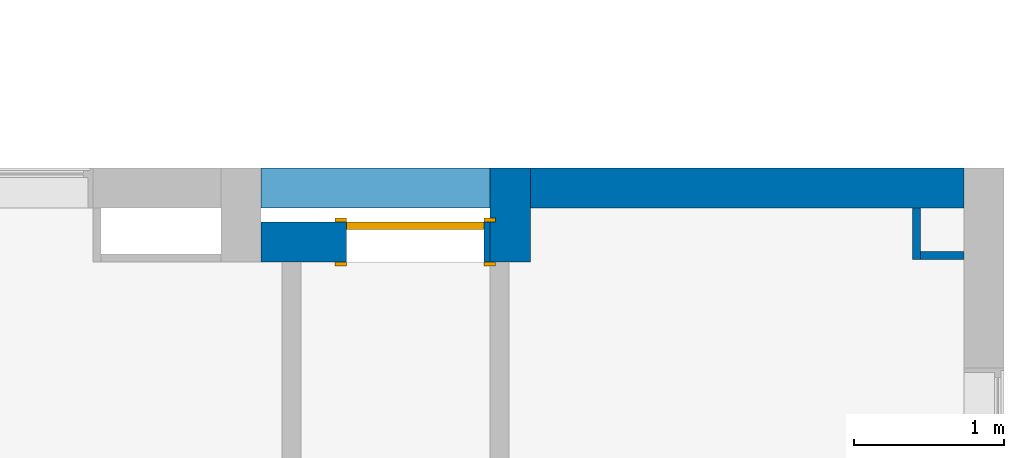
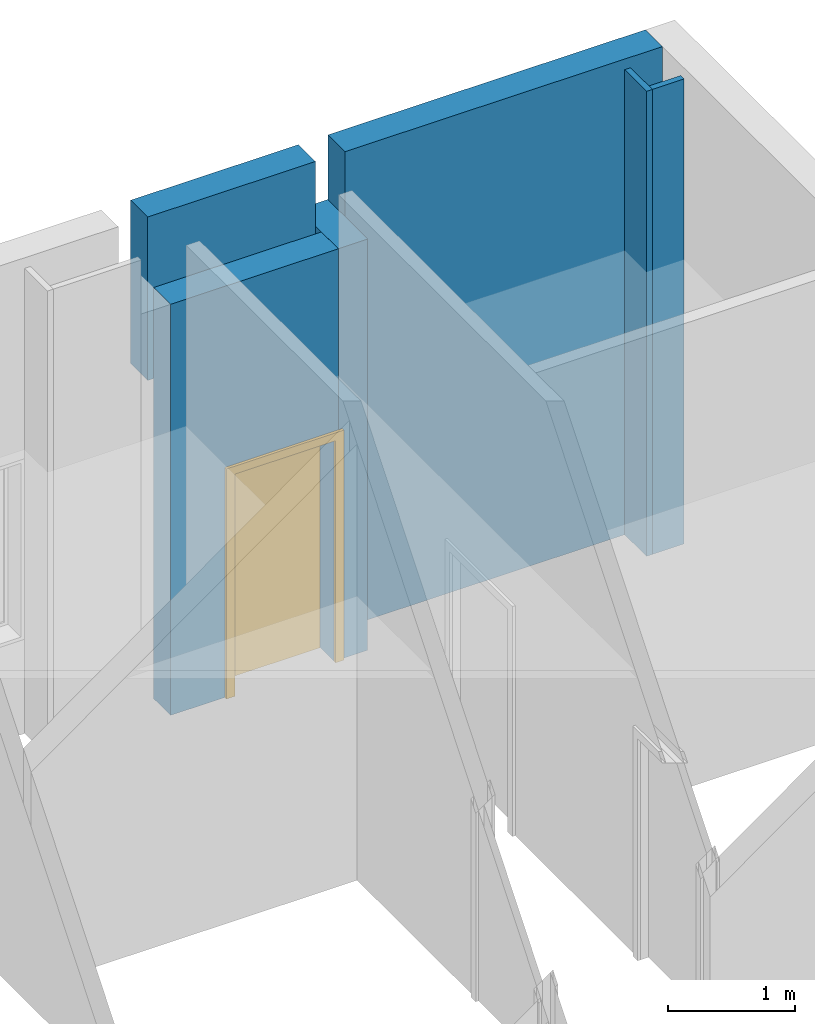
# One storey, part 42 of 87: 6 walls, 1 door, 1 opening.
"""IFC2X3 building model written with IfcOpenShell, lengths in metres."""

import ifcopenshell
import ifcopenshell.guid

model = None  # the IFC model being written
_history = None  # IfcOwnerHistory: only IFC2X3 demands one
_inside = {}  # id of a spatial element -> (the spatial element, [elements in it])
_under = {}  # id of a project, library or spatial element -> (it, [spatial elements below it])
_declared = {}  # id of a project -> (the project, [libraries it declares])
_typed = {}  # id of a type object -> (the type object, [elements of that type])
_made_of = {}  # id of a material, layer set ... -> (it, [elements and type objects made of it])


def new_model(schema):
    """Start an empty IFC model of exactly this schema.

    Asked for "IFC4X3", IfcOpenShell would pick the latest addendum, in which some entities
    have other attributes; the version numbers below select the first issue.
    IFC2X3 requires an IfcOwnerHistory on every rooted entity: one is made here for all.
    """
    global model, _history
    if schema == "IFC4X3":
        model = ifcopenshell.file(schema_version=(4, 3, 0, 0))
    else:
        model = ifcopenshell.file(schema=schema)
    _inside.clear()
    _under.clear()
    _declared.clear()
    _typed.clear()
    _made_of.clear()
    _history = None
    if model.schema == "IFC2X3":
        org = make("IfcOrganization", Name="unknown")
        user = make(
            "IfcPersonAndOrganization",
            ThePerson=make("IfcPerson", FamilyName="unknown"),
            TheOrganization=org,
        )
        app = make(
            "IfcApplication",
            ApplicationDeveloper=org,
            Version="unknown",
            ApplicationFullName="unknown",
            ApplicationIdentifier="unknown",
        )
        _history = make(
            "IfcOwnerHistory",
            OwningUser=user,
            OwningApplication=app,
            ChangeAction="ADDED",
            CreationDate=0,
        )
    return model


def make(cls, **values):
    """One entity of the class cls with the attributes given. An attribute that is None is left unset."""
    return model.create_entity(
        cls, **{name: value for name, value in values.items() if value is not None}
    )


def entity(cls, *values):
    """Any entity or typed value of the class cls, its attributes in the order of the schema. None: left unset."""
    e = model.create_entity(cls)
    for i, value in enumerate(values):
        if value is not None:
            e[i] = value
    return e


def rooted(cls, **values):
    """An entity with a GlobalId (a new one), such as an element, a storey or a relation."""
    return make(cls, GlobalId=ifcopenshell.guid.new(), OwnerHistory=_history, **values)


def si_unit(unit_type, name, prefix=None):
    """IfcSIUnit, for example si_unit("LENGTHUNIT", "METRE", prefix="MILLI")."""
    return make("IfcSIUnit", UnitType=unit_type, Prefix=prefix, Name=name)


def converted_unit(unit_type, name, factor, base, dimensions=None, offset=None):
    """IfcConversionBasedUnit, such as the inch: factor (a typed value) times the base unit."""
    return make(
        "IfcConversionBasedUnit"
        if offset is None
        else "IfcConversionBasedUnitWithOffset",
        ConversionOffset=offset,
        Dimensions=None
        if dimensions is None
        else entity("IfcDimensionalExponents", *dimensions),
        UnitType=unit_type,
        Name=name,
        ConversionFactor=make(
            "IfcMeasureWithUnit", ValueComponent=factor, UnitComponent=base
        ),
    )


def assignment(units):
    """IfcUnitAssignment: the units of a project."""
    return None if units is None else make("IfcUnitAssignment", Units=units)


def point(xyz):
    """IfcCartesianPoint."""
    return None if xyz is None else make("IfcCartesianPoint", Coordinates=xyz)


def direction(xyz):
    """IfcDirection."""
    return None if xyz is None else make("IfcDirection", DirectionRatios=xyz)


def frame(location, z_axis=None, x_axis=None):
    """IfcAxis2Placement3D, a coordinate frame: its origin and axes. An axis left out is left unset."""
    return make(
        "IfcAxis2Placement3D",
        Location=point(location),
        Axis=direction(z_axis),
        RefDirection=direction(x_axis),
    )


def frame_2d(location, x_axis=None):
    """IfcAxis2Placement2D, a coordinate frame in the plane: its origin and x axis."""
    return make(
        "IfcAxis2Placement2D", Location=point(location), RefDirection=direction(x_axis)
    )


def origin():
    """The frame at (0, 0, 0) with its axes left unset."""
    return frame((0.0, 0.0, 0.0))


def origin_2d_with_axis():
    """The frame at (0, 0) in the plane with the x axis (1, 0) written out."""
    return frame_2d((0.0, 0.0), x_axis=(1.0, 0.0))


def place(relative_to, where):
    """IfcLocalPlacement: puts the frame where relative to a parent placement (None: the world)."""
    return make(
        "IfcLocalPlacement", PlacementRelTo=relative_to, RelativePlacement=where
    )


def context(
    kind, dimensions, precision=None, world=None, true_north=None, identifier=None
):
    """IfcGeometricRepresentationContext, for example the 3D "Model" context."""
    return make(
        "IfcGeometricRepresentationContext",
        ContextIdentifier=identifier,
        ContextType=kind,
        CoordinateSpaceDimension=dimensions,
        Precision=precision,
        WorldCoordinateSystem=world,
        TrueNorth=true_north,
    )


def project(units=None, contexts=None):
    """IfcProject with its units and contexts."""
    return rooted(
        "IfcProject",
        Name="project",
        RepresentationContexts=contexts,
        UnitsInContext=assignment(units),
    )


def spatial(cls, under=None, at=None, **own):
    """A site, building, storey or space (cls), placed at a placement, below another one or the project."""
    s = rooted(cls, ObjectPlacement=at, **own)
    if under is not None:
        _under.setdefault(under.id(), (under, []))[1].append(s)
    return s


def polyline(points):
    """IfcPolyline through the points."""
    return make("IfcPolyline", Points=[point(p) for p in points])


def profile(cls, at=None, kind="AREA", **sizes):
    """A parametric profile (cls). Its sizes go by their IFC names, for example OverallWidth=200.0."""
    return make(cls, ProfileType=kind, Position=at, **sizes)


def rectangle(**sizes):
    """IfcRectangleProfileDef."""
    return profile("IfcRectangleProfileDef", **sizes)


def outline(outer, holes=None, kind="AREA"):
    """IfcArbitraryClosedProfileDef: a profile drawn as a closed curve; with holes, ...WithVoids."""
    if holes is None:
        return make("IfcArbitraryClosedProfileDef", ProfileType=kind, OuterCurve=outer)
    return make(
        "IfcArbitraryProfileDefWithVoids",
        ProfileType=kind,
        OuterCurve=outer,
        InnerCurves=holes,
    )


def extrude(swept, where, along, depth):
    """IfcExtrudedAreaSolid: the profile swept, set in the frame where, extruded along a direction by depth."""
    return make(
        "IfcExtrudedAreaSolid",
        SweptArea=swept,
        Position=where,
        ExtrudedDirection=direction(along),
        Depth=depth,
    )


def shape(context_of_items, identifier, shape_type, items):
    """IfcShapeRepresentation: the items that make up one representation, for example the "Body"."""
    return make(
        "IfcShapeRepresentation",
        ContextOfItems=context_of_items,
        RepresentationIdentifier=identifier,
        RepresentationType=shape_type,
        Items=items,
    )


def source(mapping_origin, context_of_items, identifier, shape_type, items):
    """IfcRepresentationMap: a shape defined once, which mapped items show again and again."""
    return make(
        "IfcRepresentationMap",
        MappingOrigin=mapping_origin,
        MappedRepresentation=shape(context_of_items, identifier, shape_type, items),
    )


def transform(
    local_origin,
    x_axis=None,
    y_axis=None,
    z_axis=None,
    scale=None,
    scale2=None,
    scale3=None,
    uniform=True,
):
    """IfcCartesianTransformationOperator3D, or its non-uniform kind. x_axis, y_axis, z_axis: its Axis1, 2, 3."""
    if uniform:
        return make(
            "IfcCartesianTransformationOperator3D",
            Axis1=direction(x_axis),
            Axis2=direction(y_axis),
            LocalOrigin=point(local_origin),
            Scale=scale,
            Axis3=direction(z_axis),
        )
    return make(
        "IfcCartesianTransformationOperator3DnonUniform",
        Axis1=direction(x_axis),
        Axis2=direction(y_axis),
        LocalOrigin=point(local_origin),
        Scale=scale,
        Axis3=direction(z_axis),
        Scale2=scale2,
        Scale3=scale3,
    )


def mapped(mapping_source, mapping_target):
    """IfcMappedItem: shows the shape of a source again, moved by a transform."""
    return make(
        "IfcMappedItem", MappingSource=mapping_source, MappingTarget=mapping_target
    )


def material(Name=None, Category=None):
    """IfcMaterial."""
    return make("IfcMaterial", Name=Name, Category=Category)


def layer(
    of_material, thickness, ventilated=None, Name=None, Category=None, Priority=None
):
    """IfcMaterialLayer: one layer of a wall or slab, of a material (None: an air gap)."""
    return make(
        "IfcMaterialLayer",
        Material=of_material,
        LayerThickness=thickness,
        IsVentilated=ventilated,
        Name=Name,
        Category=Category,
        Priority=Priority,
    )


def layer_set(layers, Name=None):
    """IfcMaterialLayerSet."""
    return make("IfcMaterialLayerSet", MaterialLayers=layers, LayerSetName=Name)


def layer_usage(for_layer_set, set_direction, sense, offset, extent=None):
    """IfcMaterialLayerSetUsage: how a layer set lies in its element."""
    return make(
        "IfcMaterialLayerSetUsage",
        ForLayerSet=for_layer_set,
        LayerSetDirection=set_direction,
        DirectionSense=sense,
        OffsetFromReferenceLine=offset,
        ReferenceExtent=extent,
    )


def made_of(thing, what):
    """Note that an element or type object is made of a material, layer set ...; save() writes the relation."""
    if what is not None:
        _made_of.setdefault(what.id(), (what, []))[1].append(thing)
    return thing


def type_object(cls, material=None, **own):
    """A type object (cls), such as IfcWallType, which elements share."""
    return made_of(rooted(cls, **own), material)


def type_shapes(of_type, sources):
    """Give a type object the sources (RepresentationMaps) that its elements show as mapped items."""
    of_type.RepresentationMaps = sources


def element(
    cls,
    number,
    at=None,
    inside=None,
    cuts=None,
    type_object=None,
    material=None,
    context=None,
    identifier="Body",
    shape_type=None,
    held_by="IfcProductDefinitionShape",
    body=None,
    shapes=None,
    **own,
):
    """One element of the class cls, such as IfcWall. Its Tag is "e" and its number.

    at: its placement. inside: the storey or other place that contains it. cuts: it is an
    opening in that element (IfcRelVoidsElement). A single representation is given by context,
    identifier, shape_type and body (its items); several are given by shapes. held_by: the class
    of the entity that holds the representations. save() writes the other relations.
    """
    e = rooted(cls, Tag="e%d" % number, ObjectPlacement=at, **own)
    if body is not None:
        shapes = [shape(context, identifier, shape_type, body)]
    if shapes is not None:
        e.Representation = make(held_by, Representations=shapes)
    if inside is not None:
        _inside.setdefault(inside.id(), (inside, []))[1].append(e)
    if cuts is not None:
        rooted(
            "IfcRelVoidsElement", RelatingBuildingElement=cuts, RelatedOpeningElement=e
        )
    if type_object is not None:
        _typed.setdefault(type_object.id(), (type_object, []))[1].append(e)
    return made_of(e, material)


def fill(opening, filler):
    """IfcRelFillsElement: the door or window that sits in an opening."""
    return rooted(
        "IfcRelFillsElement",
        RelatingOpeningElement=opening,
        RelatedBuildingElement=filler,
    )


def aggregate(whole, parts):
    """IfcRelAggregates: a whole, such as a stair, and the parts it consists of."""
    return rooted("IfcRelAggregates", RelatingObject=whole, RelatedObjects=parts)


def save(model, path):
    """Write the relations noted so far, then the file.

    IfcRelAggregates (storeys below a building ...), IfcRelContainedInSpatialStructure (elements
    in a storey), IfcRelDefinesByType, IfcRelAssociatesMaterial and IfcRelDeclares: one each for
    every whole, place, type object, material and project.
    """
    for whole, parts in _under.values():
        aggregate(whole, parts)
    for where, things in _inside.values():
        rooted(
            "IfcRelContainedInSpatialStructure",
            RelatedElements=things,
            RelatingStructure=where,
        )
    for kind, things in _typed.values():
        rooted("IfcRelDefinesByType", RelatedObjects=things, RelatingType=kind)
    for what, things in _made_of.values():
        rooted("IfcRelAssociatesMaterial", RelatedObjects=things, RelatingMaterial=what)
    for by, libraries in _declared.values():
        rooted("IfcRelDeclares", RelatingContext=by, RelatedDefinitions=libraries)
    model.write(path)


model = new_model("IFC2X3")

# Units and contexts
model_context = context("Model", 3, precision=1e-09, world=origin())
plan_context = context("Plan", 3, precision=1e-09, world=origin())
ifc_project = project(units=[si_unit("LENGTHUNIT", "METRE"), si_unit("AREAUNIT", "SQUARE_METRE"), si_unit("VOLUMEUNIT", "CUBIC_METRE"), converted_unit("PLANEANGLEUNIT", "DEGREE", entity("IfcRatioMeasure", 0.01745329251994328), si_unit("PLANEANGLEUNIT", "RADIAN"), dimensions=[0, 0, 0, 0, 0, 0, 0]), si_unit("TIMEUNIT", "SECOND")], contexts=[model_context, plan_context])

# Site, building, storey
site_placement = place(None, origin())
site = spatial("IfcSite", under=ifc_project, at=site_placement, Name="Default", CompositionType="ELEMENT")
building_placement = place(site_placement, origin())
building = spatial("IfcBuilding", under=site, at=building_placement, CompositionType="ELEMENT")
storey_placement = place(building_placement, origin())
storey = spatial("IfcBuildingStorey", under=building, at=storey_placement, Name="First Floor", CompositionType="ELEMENT", Elevation=-3.531500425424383e-13)

# Wall, opening, door
ifc_material_1 = material(Name="Insulation - Insulated Panel")
ifc_layer_1 = layer(ifc_material_1, 0.042)
ifc_material_2 = material(Name="Metal - Firring")
ifc_layer_2 = layer(ifc_material_2, 0.038)
ifc_material_3 = material(Name="Wood - Sheathing - plywood")
ifc_layer_3 = layer(ifc_material_3, 0.019)
ifc_material_4 = material(Name="Metal - Stud Layer")
ifc_layer_4 = layer(ifc_material_4, 0.152)
ifc_material_5 = material(Name="Plasterboard")
ifc_layer_5 = layer(ifc_material_5, 0.016)
ifc_layer_set_1 = layer_set([ifc_layer_1, ifc_layer_2, ifc_layer_3, ifc_layer_4, ifc_layer_5], Name="Basic Wall:Exterior - Insul Panel on Mtl. Stud")
ifc_layer_usage_1 = layer_usage(ifc_layer_set_1, "AXIS2", "NEGATIVE", 0.1335)
wall_1_placement = place(storey_placement, frame((-4.565000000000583, 49.97649999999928, 0.0)))
wall_1 = element("IfcWallStandardCase", 1, at=wall_1_placement, inside=storey, material=ifc_layer_usage_1, Name="Basic Wall:Exterior - Insul Panel on Mtl. Stud", ObjectType="Basic Wall:Exterior - Insul Panel on Mtl. Stud", context=model_context, shape_type="SweptSolid", body=[
    extrude(rectangle(XDim=1.525000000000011, YDim=0.2670000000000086, at=frame_2d((0.7625000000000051, 0.0), x_axis=(-1.0, 0.0))), origin(), (0.0, 0.0, 1.0), 3.949500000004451),
])
opening_placement = place(wall_1_placement, frame((0.5700000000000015, -0.1335000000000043, 0.0)))
opening = element("IfcOpeningElement", 2, at=opening_placement, cuts=wall_1, Name="M_Single-Flush:0915 x 2134mm Exterior:0915 x 2134mm Exterior:1", ObjectType="Opening", context=model_context, shape_type="SweptSolid", body=[
    extrude(rectangle(XDim=0.9149999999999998, YDim=2.134, at=frame_2d((1.067, 0.4575), x_axis=(0.0, 1.0))), frame((0.0, 0.0, 0.0), z_axis=(0.0, 1.0, 0.0), x_axis=(0.0, 0.0, 1.0)), (0.0, 0.0, 1.0), 0.267),
])
door_style = type_object("IfcDoorStyle", Name="0915 x 2134mm Exterior", ConstructionType="NOTDEFINED", OperationType="SINGLE_SWING_RIGHT", ParameterTakesPrecedence=False, Sizeable=False)
shared_shape = source(origin(), model_context, "Body", "SweptSolid", [
    extrude(outline(polyline([(-0.5335, -1.123999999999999), (0.5334999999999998, -1.123999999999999), (0.5334999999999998, 1.086), (0.4574999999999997, 1.086), (0.4574999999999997, -1.048000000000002), (-0.4574999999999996, -1.048000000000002), (-0.4574999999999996, 1.086), (-0.5335, 1.086), (-0.5335, -1.123999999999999)])), frame((0.4575000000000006, 0.2669999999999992, 1.086), z_axis=(0.0, 1.0, 0.0), x_axis=(1.0, 0.0, 0.0)), (0.0, 0.0, 1.0), 0.02499999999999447),
    extrude(outline(polyline([(-1.123999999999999, -0.5334999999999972), (1.085999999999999, -0.5334999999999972), (1.085999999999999, -0.4575000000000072), (-1.048, -0.4575000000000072), (-1.048, 0.4575000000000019), (1.085999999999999, 0.4575000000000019), (1.085999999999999, 0.5335000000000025), (-1.123999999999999, 0.5335000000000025), (-1.123999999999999, -0.5334999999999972)])), frame((0.4575000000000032, -0.02500000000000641, 1.085999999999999), z_axis=(0.0, 1.0, 0.0), x_axis=(0.0, 0.0, -1.0)), (0.0, 0.0, 1.0), 0.0250000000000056),
    extrude(rectangle(XDim=0.051, YDim=0.9149999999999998, at=origin_2d_with_axis()), frame((0.4575000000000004, 0.2414999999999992, 0.0), z_axis=(0.0, 0.0, 1.0), x_axis=(0.0, 1.0, 0.0)), (0.0, 0.0, 1.0), 2.133999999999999),
])
type_shapes(door_style, [shared_shape])
door_placement = place(opening_placement, origin())
door = element("IfcDoor", 3, at=door_placement, inside=storey, type_object=door_style, Name="M_Single-Flush:0915 x 2134mm Exterior:0915 x 2134mm Exterior", ObjectType="0915 x 2134mm Exterior", OverallHeight=2.134, OverallWidth=0.9150000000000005, context=model_context, shape_type="MappedRepresentation", body=[
    mapped(shared_shape, transform((0.0, 0.0, 0.0), scale=1.0)),
])
fill(opening, door)

# Walls
ifc_layer_usage_2 = layer_usage(ifc_layer_set_1, "AXIS2", "NEGATIVE", 0.1335)
wall_2_placement = place(storey_placement, frame((-2.906500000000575, 49.84299999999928, 0.0), z_axis=(0.0, 0.0, 1.0), x_axis=(0.0, 1.0, 0.0)))
element("IfcWallStandardCase", 4, at=wall_2_placement, inside=storey, material=ifc_layer_usage_2, Name="Basic Wall:Exterior - Insul Panel on Mtl. Stud", ObjectType="Basic Wall:Exterior - Insul Panel on Mtl. Stud", context=model_context, shape_type="SweptSolid", body=[
    extrude(rectangle(XDim=0.6269999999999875, YDim=0.267, at=frame_2d((0.3134999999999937, 0.0), x_axis=(-1.0, 0.0))), origin(), (0.0, 0.0, 1.0), 3.949500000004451),
])
ifc_layer_usage_3 = layer_usage(ifc_layer_set_1, "AXIS2", "NEGATIVE", 0.1335)
wall_3_placement = place(storey_placement, frame((-2.906500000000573, 50.33649999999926, 0.0)))
element("IfcWallStandardCase", 5, at=wall_3_placement, inside=storey, material=ifc_layer_usage_3, Name="Basic Wall:Exterior - Insul Panel on Mtl. Stud", ObjectType="Basic Wall:Exterior - Insul Panel on Mtl. Stud", context=model_context, shape_type="SweptSolid", body=[
    extrude(rectangle(XDim=2.88599999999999, YDim=0.267, at=frame_2d((1.576499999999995, 0.0), x_axis=(-1.0, 0.0))), origin(), (0.0, 0.0, 1.0), 4.57000000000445),
])
ifc_layer_usage_4 = layer_usage(ifc_layer_set_1, "AXIS2", "NEGATIVE", 0.1335)
wall_4_placement = place(storey_placement, frame((-4.698500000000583, 50.33649999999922, 3.0)))
element("IfcWallStandardCase", 6, at=wall_4_placement, inside=storey, material=ifc_layer_usage_4, Name="Basic Wall:Exterior - Insul Panel on Mtl. Stud", ObjectType="Basic Wall:Exterior - Insul Panel on Mtl. Stud", context=model_context, shape_type="SweptSolid", body=[
    extrude(rectangle(XDim=1.525000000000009, YDim=0.2669999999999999, at=frame_2d((0.8960000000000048, 0.0), x_axis=(-1.0, 0.0))), origin(), (0.0, 0.0, 1.0), 1.570000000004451),
])
ifc_layer_6 = layer(ifc_material_4, 0.038)
ifc_layer_7 = layer(ifc_material_5, 0.016)
ifc_layer_set_2 = layer_set([ifc_layer_6, ifc_layer_7], Name="Basic Wall:Interior - Furring (38 mm Stud)")
ifc_layer_usage_5 = layer_usage(ifc_layer_set_2, "AXIS2", "NEGATIVE", 0.027)
wall_5_placement = place(storey_placement, frame((-0.2030000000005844, 50.20299999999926, 0.0), z_axis=(0.0, 0.0, 1.0), x_axis=(0.0, -1.0, 0.0)))
element("IfcWallStandardCase", 7, at=wall_5_placement, inside=storey, material=ifc_layer_usage_5, Name="Basic Wall:Interior - Furring (38 mm Stud)", ObjectType="Basic Wall:Interior - Furring (38 mm Stud)", context=model_context, shape_type="SweptSolid", body=[
    extrude(rectangle(XDim=0.3429999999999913, YDim=0.05400000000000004, at=frame_2d((0.1714999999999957, 0.0), x_axis=(-1.0, 0.0))), origin(), (0.0, 0.0, 1.0), 4.46800000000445),
])
ifc_layer_usage_6 = layer_usage(ifc_layer_set_2, "AXIS2", "NEGATIVE", 0.027)
wall_6_placement = place(storey_placement, frame((-0.1760000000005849, 49.88699999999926, 0.0)))
element("IfcWallStandardCase", 8, at=wall_6_placement, inside=storey, material=ifc_layer_usage_6, Name="Basic Wall:Interior - Furring (38 mm Stud)", ObjectType="Basic Wall:Interior - Furring (38 mm Stud)", context=model_context, shape_type="SweptSolid", body=[
    extrude(rectangle(XDim=0.2889999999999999, YDim=0.05400000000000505, at=frame_2d((0.1444999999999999, 0.0), x_axis=(-1.0, 0.0))), origin(), (0.0, 0.0, 1.0), 4.46800000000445),
])

save(model, "model.ifc")
